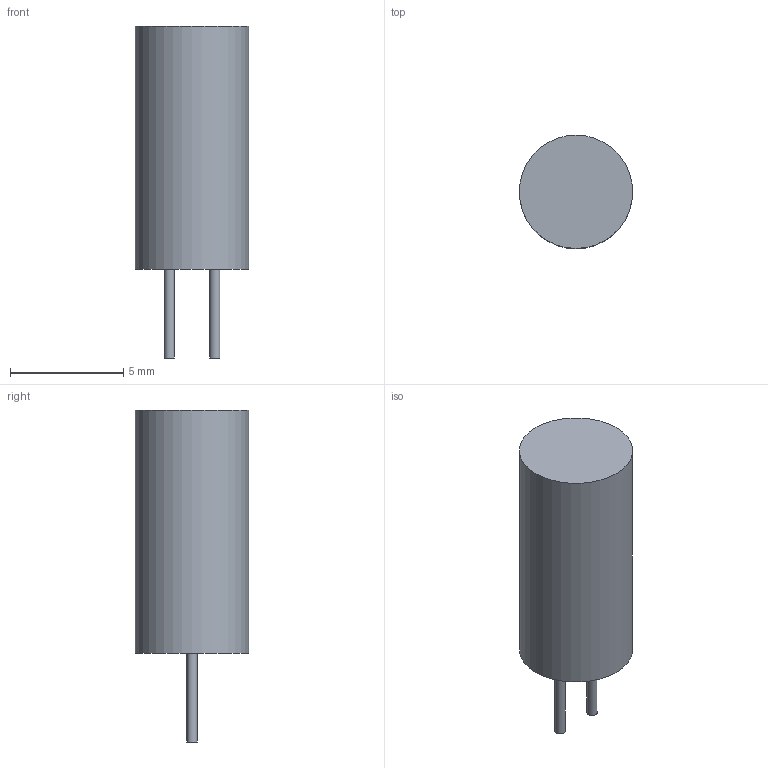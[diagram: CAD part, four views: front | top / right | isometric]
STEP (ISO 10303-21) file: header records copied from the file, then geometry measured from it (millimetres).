
FILE_DESCRIPTION(('STEP AP214'),'1');
FILE_NAME('U1-E','2018-02-09T17:47:44',(''),(''),'','','');
FILE_SCHEMA(('AUTOMOTIVE_DESIGN'));
Length unit declared in the file: millimetre
Products named in the file (1): product
Bounding box: 5 x 5 x 14.66 mm (x, y, z)
Volume: 212.6 mm3; surface area: 220.1 mm2
Topology: 3 solids, 3 shells, 9 faces, 9 edges, 6 vertices
Faces by surface type: plane 6, cylinder 3
Full cylindrical faces by diameter (mm): 0.457 x2, 5.004 x1
Entity records: 218 total; most frequent: DIRECTION 38, CARTESIAN_POINT 25, AXIS2_PLACEMENT_3D 19, EDGE_LOOP 12, ORIENTED_EDGE 12, ADVANCED_FACE 9, FACE_OUTER_BOUND 9, STYLED_ITEM 9
